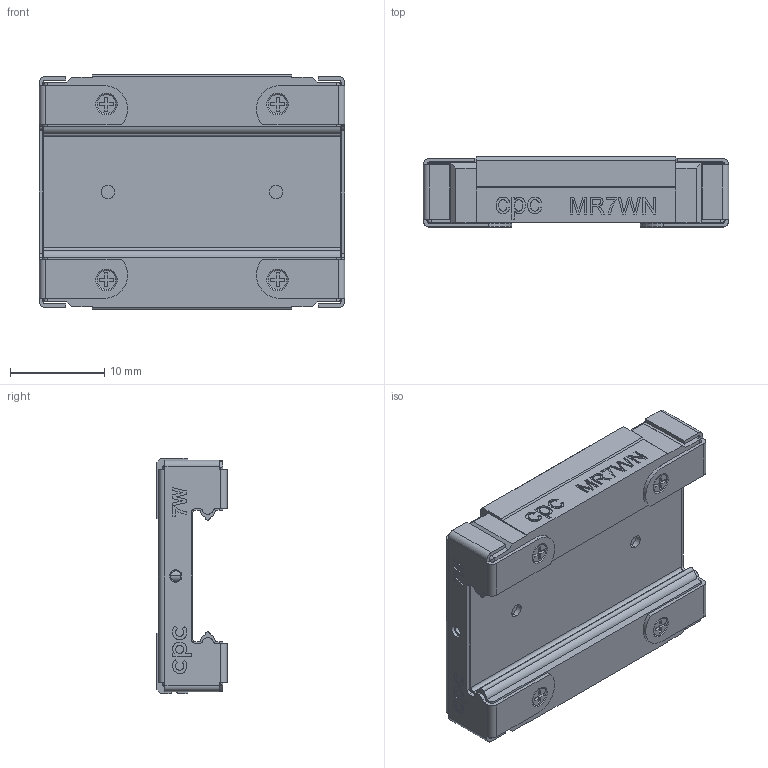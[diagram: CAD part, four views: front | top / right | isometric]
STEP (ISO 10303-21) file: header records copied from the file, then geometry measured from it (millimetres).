
FILE_DESCRIPTION (( 'STEP AP203' ), '1' );
FILE_NAME ('7WN-EE_EZ-block.STEP', '2009-10-02T07:58:05', ( 'cpc' ), ( '' ), 'SwSTEP 2.0', 'SolidWorks 2007', '' );
FILE_SCHEMA (( 'CONFIG_CONTROL_DESIGN' ));
Length unit declared in the file: millimetre
Products named in the file (5): 7WN-SS-block(x1)_預設; 7WN-EE_EZ-block; MR7W加強片-x1 ; screwM1.4_預設 _預設; M1x0.25-screw-2 _預設
Assembly tree (9 placements, depth 2):
  7WN-EE_EZ-block
    M1x0.25-screw-2 _預設  x4
    7WN-SS-block(x1)_預設
    MR7W加強片-x1   x2
    screwM1.4_預設 _預設  x2
Bounding box: 32.5 x 7.45 x 25 mm (x, y, z)
Volume: 3954.8 mm3; surface area: 4398.2 mm2
Topology: 9 solids, 9 shells, 975 faces, 2631 edges, 1736 vertices
Faces by surface type: plane 539, bspline 242, cylinder 142, cone 52
Entity records: 32332 total; most frequent: CARTESIAN_POINT 15308, ORIENTED_EDGE 3746, DIRECTION 2729, EDGE_CURVE 1873, VECTOR 1283, LINE 1283, VERTEX_POINT 1240, EDGE_LOOP 765
